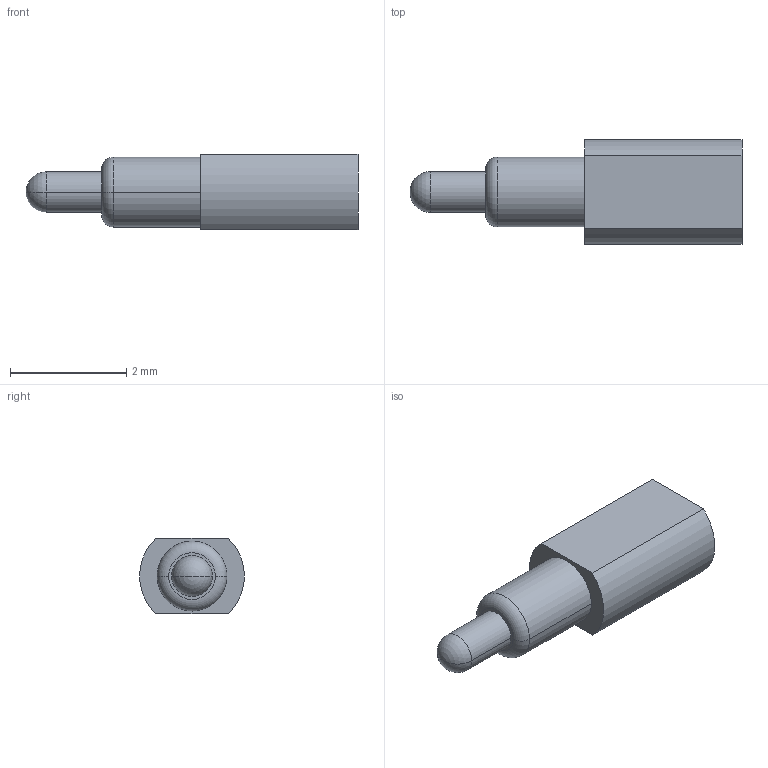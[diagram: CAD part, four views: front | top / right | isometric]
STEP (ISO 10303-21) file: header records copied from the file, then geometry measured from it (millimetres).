
FILE_DESCRIPTION((''),'2;1');
FILE_NAME('NC3616-01RA','2022-05-25T10:26:19',('USER'),(''),'CREO PARAMETRIC BY PTC INC, 2018400','CREO PARAMETRIC BY PTC INC, 2018400','');
FILE_SCHEMA(('CONFIG_CONTROL_DESIGN'));
Length unit declared in the file: millimetre
Products named in the file (1): NC3616-01RA
Bounding box: 5.7 x 1.8 x 1.3 mm (x, y, z)
Volume: 8.1 mm3; surface area: 27.4 mm2
Topology: 1 solids, 1 shells, 15 faces, 32 edges, 19 vertices
Faces by surface type: cylinder 6, plane 5, sphere 2, torus 2
Entity records: 436 total; most frequent: DIRECTION 78, CARTESIAN_POINT 64, ORIENTED_EDGE 60, AXIS2_PLACEMENT_3D 33, EDGE_CURVE 30, VERTEX_POINT 19, CIRCLE 18, EDGE_LOOP 17
